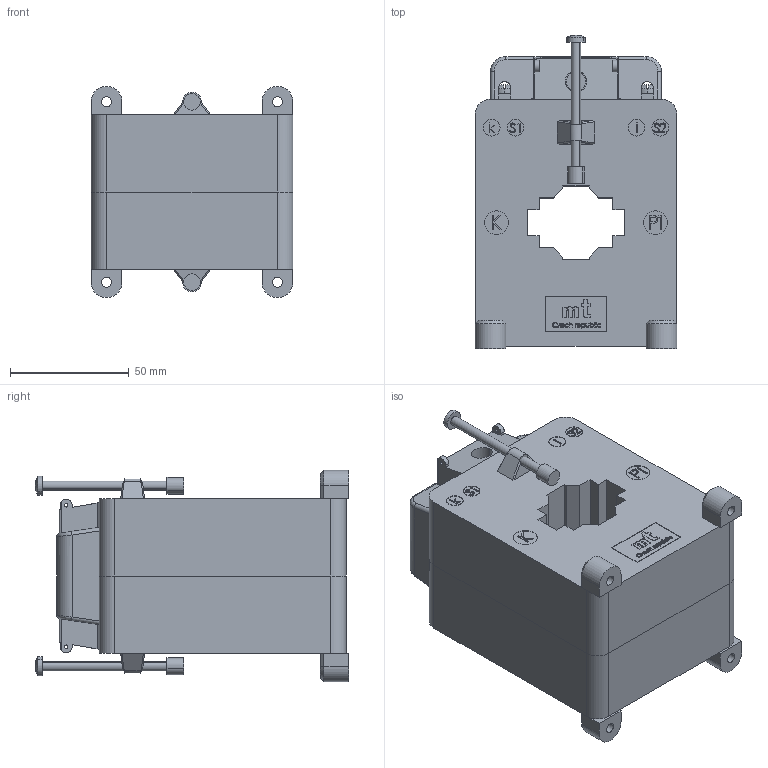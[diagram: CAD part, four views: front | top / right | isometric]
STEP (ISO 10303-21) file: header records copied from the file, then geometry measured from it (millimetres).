
FILE_DESCRIPTION (( 'STEP AP214' ), '1' );
FILE_NAME ('CLA 2.2.STEP', '2024-09-30T14:48:34', ( '' ), ( '' ), 'SwSTEP 2.0', 'SolidWorks 2024', '' );
FILE_SCHEMA (( 'AUTOMOTIVE_DESIGN' ));
Length unit declared in the file: millimetre
Products named in the file (11): Secondary terminal; Rivet 40; Back plastic case CLA 2.2; Insulating cap; Screw 4x60; Plastic mounting foot; Type label CLA 2.2; CLA 2.2; Screw M5x8; Secondary terminal cover CLA; Front plastic case CLA 2.2
Assembly tree (19 placements, depth 2):
  CLA 2.2
    Front plastic case CLA 2.2
    Back plastic case CLA 2.2
    Type label CLA 2.2
    Secondary terminal cover CLA
    Plastic mounting foot  x4
    Secondary terminal  x2
    Screw M5x8  x2
    Screw 4x60  x2
    Rivet 40  x3
    Insulating cap  x2
Bounding box: 85 x 132 x 89 mm (x, y, z)
Volume: 557646 mm3; surface area: 98090.1 mm2
Topology: 19 solids, 22 shells, 1384 faces, 3632 edges, 2396 vertices
Faces by surface type: plane 782, bspline 317, cylinder 225, cone 36, sphere 12, torus 12
Entity records: 52068 total; most frequent: CARTESIAN_POINT 23991, ORIENTED_EDGE 6190, DIRECTION 4463, EDGE_CURVE 3095, LINE 2075, VECTOR 2075, VERTEX_POINT 2050, EDGE_LOOP 1291
